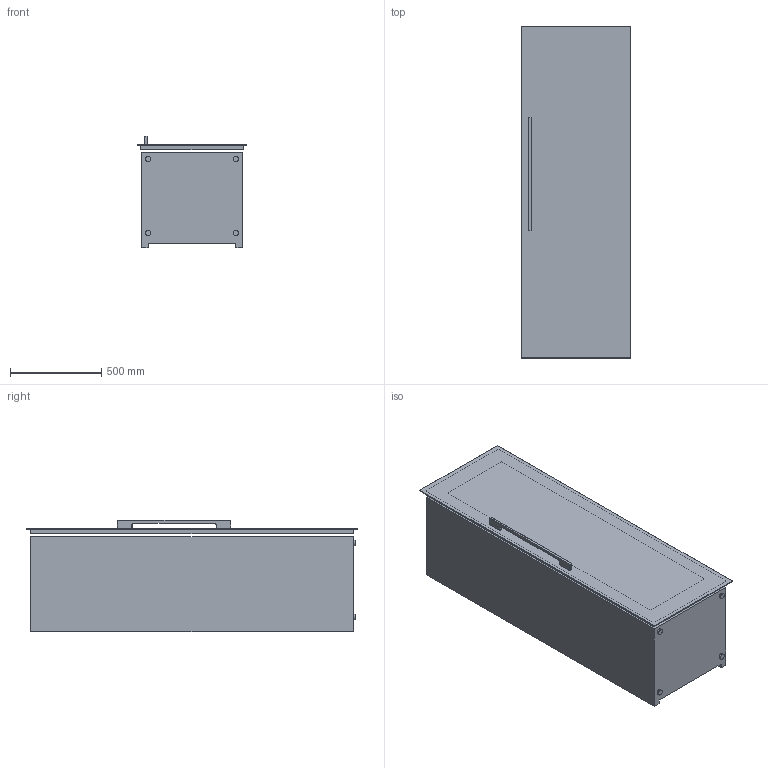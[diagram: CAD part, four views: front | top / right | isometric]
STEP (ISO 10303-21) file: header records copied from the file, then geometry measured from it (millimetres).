
FILE_DESCRIPTION((''),'2;1');
FILE_NAME('106DT_2023-5-12_ASM','2023-05-12T15:51:48',('JS006S'),(''),'CREO PARAMETRIC BY PTC INC, 2019010','CREO PARAMETRIC BY PTC INC, 2019010','');
FILE_SCHEMA(('CONFIG_CONTROL_DESIGN'));
Products named in the file (15): 10600_2_1; 10600_1_1_1; 10600_1_2_1; 10600_1_3_1; 10600_1_4_1; 10600_1_ASM_1_ASM; 000_1_1; 00_1-2382_1; 0_2_1; 00_1-2992_1; 106DT0001_ASM_1_ASM_1_ASM; LEDZ2015-3-24_1; 106DT_ASM_ASM_1_ASM; 1070000; 106DT_2023-5-12_ASM
Assembly tree (28 placements, depth 5):
  106DT_2023-5-12_ASM
    106DT_ASM_ASM_1_ASM
      106DT0001_ASM_1_ASM_1_ASM
        10600_2_1
        10600_1_ASM_1_ASM
          10600_1_1_1
          10600_1_2_1
          10600_1_3_1
          10600_1_4_1
        000_1_1
        00_1-2382_1  x14
        0_2_1
        00_1-2992_1
      LEDZ2015-3-24_1  x2
    1070000
Bounding box: 600 x 1816 x 608 mm (x, y, z)
Volume: 240221211.7 mm3; surface area: 12249019.1 mm2
Topology: 25 solids, 25 shells, 15597 faces, 37906 edges, 25236 vertices
Faces by surface type: plane 15505, cylinder 76, cone 16
Entity records: 217559 total; most frequent: CARTESIAN_POINT 38543, ORIENTED_EDGE 36716, DIRECTION 33726, EDGE_CURVE 18358, VECTOR 18158, LINE 18158, VERTEX_POINT 12222, EDGE_LOOP 9074
